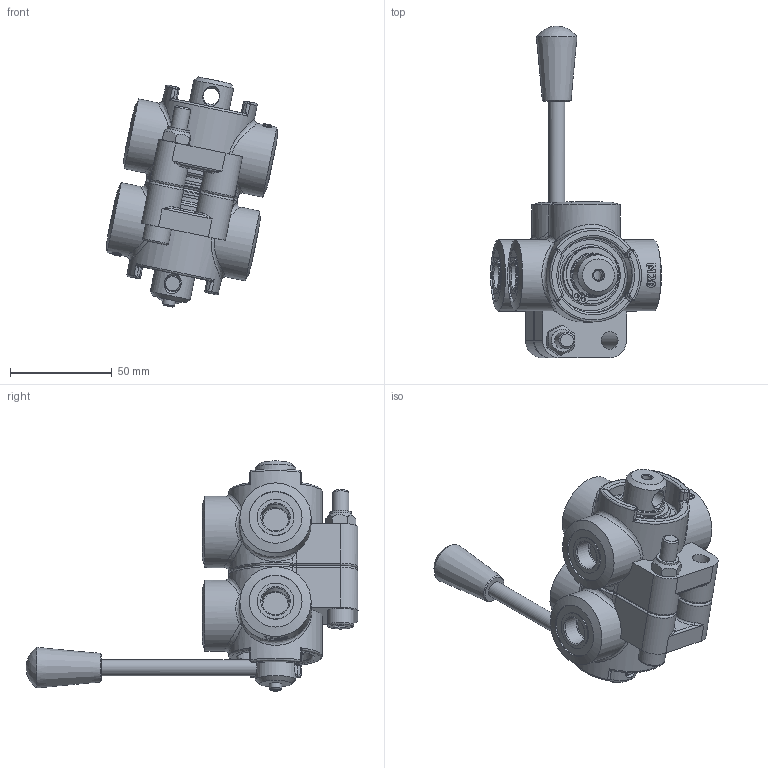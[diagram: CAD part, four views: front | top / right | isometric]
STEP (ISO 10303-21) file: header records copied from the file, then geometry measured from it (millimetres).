
FILE_DESCRIPTION((''),'2;1');
FILE_NAME('G:\HV_HYDRAULIC\AZIENDA_HV_HYDRAULIC\ARCHIVIO_DISEGNI\5_PRODOTTI_FINITI\2_DEVIATORI_INVERTITORI\7003_D6\7003.0100_D6_3-8_G_ca_(HV)\7003.0100.stp','2024-08-26T12:30:40',('christian.scardovi'),(''),'Autodesk Inventor 2013','Autodesk Inventor 2013','');
FILE_SCHEMA(('AUTOMOTIVE_DESIGN { 1 0 10303 214 1 1 1 1 }'));
Length unit declared in the file: millimetre
Products named in the file (1): 7003.0100
Bounding box: 83.94 x 163 x 113.03 mm (x, y, z)
Volume: 244514.2 mm3; surface area: 50605.5 mm2
Topology: 1 solids, 1 shells, 619 faces, 1504 edges, 884 vertices
Faces by surface type: cylinder 188, plane 164, bspline 118, torus 91, cone 41, sphere 17
Full cylindrical faces by diameter (mm): 2 x8, 4 x4, 4.917 x1, 6 x1, 8 x3, 8.5 x1, 11.05 x1, 13 x1, 13.5 x6, 18 x6, 20 x2, 21 x4, 21.9 x4, 22 x2, 26 x6, 28 x4, 35 x6, 37 x2, 46 x2
Entity records: 32311 total; most frequent: CARTESIAN_POINT 18735, DIRECTION 2596, ORIENTED_EDGE 2592, EDGE_CURVE 1296, AXIS2_PLACEMENT_3D 1107, VERTEX_POINT 836, EDGE_LOOP 790, FACE_OUTER_BOUND 619
